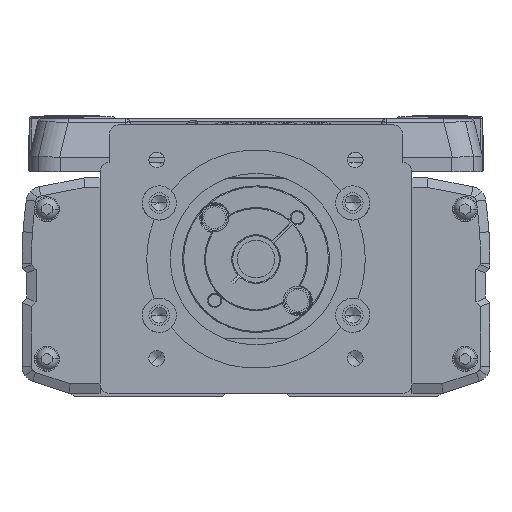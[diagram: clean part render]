
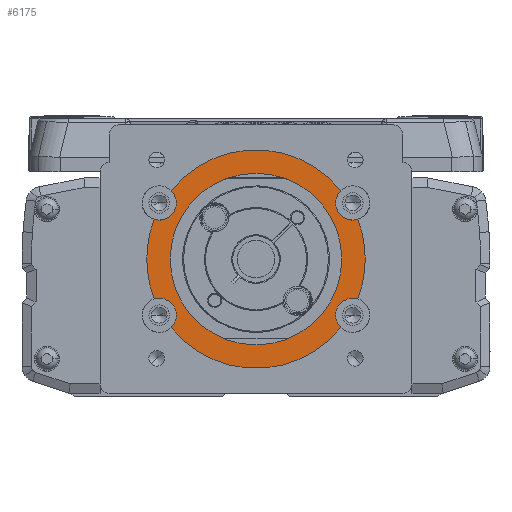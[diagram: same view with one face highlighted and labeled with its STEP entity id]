
A CAD part, left-side view. The second image highlights one B-rep face of the part: STEP entity #6175.
In plain terms, the highlighted planar face has unit normal (-1, 0, 0).
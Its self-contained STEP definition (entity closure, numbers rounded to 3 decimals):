
#6175=ADVANCED_FACE('',(#13494,#13495),#13496,.F.);
#13494=FACE_OUTER_BOUND('',#23481,.T.);
#13495=FACE_BOUND('',#23482,.T.);
#13496=PLANE('',#23483);
#23481=EDGE_LOOP('',(#40903,#40904,#40905,#40906,#40907,#40908,#40909,#40910,#40911,#40912,#40913,#40914,#40915,#40916));
#23482=EDGE_LOOP('',(#40917,#40918));
#23483=AXIS2_PLACEMENT_3D('',#40919,#40920,#40921);
#40903=ORIENTED_EDGE('',*,*,#59332,.F.);
#40904=ORIENTED_EDGE('',*,*,#59269,.T.);
#40905=ORIENTED_EDGE('',*,*,#59333,.T.);
#40906=ORIENTED_EDGE('',*,*,#59334,.F.);
#40907=ORIENTED_EDGE('',*,*,#59335,.F.);
#40908=ORIENTED_EDGE('',*,*,#59336,.T.);
#40909=ORIENTED_EDGE('',*,*,#55675,.F.);
#40910=ORIENTED_EDGE('',*,*,#56254,.F.);
#40911=ORIENTED_EDGE('',*,*,#59337,.T.);
#40912=ORIENTED_EDGE('',*,*,#59338,.T.);
#40913=ORIENTED_EDGE('',*,*,#59152,.F.);
#40914=ORIENTED_EDGE('',*,*,#59339,.F.);
#40915=ORIENTED_EDGE('',*,*,#59340,.T.);
#40916=ORIENTED_EDGE('',*,*,#54349,.F.);
#40917=ORIENTED_EDGE('',*,*,#59341,.F.);
#40918=ORIENTED_EDGE('',*,*,#59342,.F.);
#40919=CARTESIAN_POINT('',(-69.,0.,0.));
#40920=DIRECTION('',(1.0,0.,0.));
#40921=DIRECTION('',(0.,1.0,0.));
#54349=EDGE_CURVE('',#65269,#65271,#65272,.T.);
#55675=EDGE_CURVE('',#67510,#67512,#67513,.T.);
#56254=EDGE_CURVE('',#68444,#67510,#68446,.T.);
#59152=EDGE_CURVE('',#72708,#72710,#72711,.T.);
#59269=EDGE_CURVE('',#72872,#72869,#72873,.T.);
#59332=EDGE_CURVE('',#72872,#65269,#72957,.T.);
#59333=EDGE_CURVE('',#72869,#72958,#72959,.T.);
#59334=EDGE_CURVE('',#72960,#72958,#72961,.T.);
#59335=EDGE_CURVE('',#72962,#72960,#72963,.T.);
#59336=EDGE_CURVE('',#72962,#67512,#72964,.T.);
#59337=EDGE_CURVE('',#68444,#72965,#72966,.T.);
#59338=EDGE_CURVE('',#72965,#72710,#72967,.T.);
#59339=EDGE_CURVE('',#72968,#72708,#72969,.T.);
#59340=EDGE_CURVE('',#72968,#65271,#72970,.T.);
#59341=EDGE_CURVE('',#72971,#72972,#72973,.T.);
#59342=EDGE_CURVE('',#72972,#72971,#72974,.T.);
#65269=VERTEX_POINT('',#80628);
#65271=VERTEX_POINT('',#80631);
#65272=CIRCLE('',#80632,5.5);
#67510=VERTEX_POINT('',#83705);
#67512=VERTEX_POINT('',#83708);
#67513=CIRCLE('',#83709,5.5);
#68444=VERTEX_POINT('',#84959);
#68446=CIRCLE('',#84962,5.5);
#72708=VERTEX_POINT('',#90797);
#72710=VERTEX_POINT('',#90800);
#72711=CIRCLE('',#90801,5.5);
#72869=VERTEX_POINT('',#91012);
#72872=VERTEX_POINT('',#91016);
#72873=CIRCLE('',#91017,35.0);
#72957=CIRCLE('',#91152,5.5);
#72958=VERTEX_POINT('',#91153);
#72959=CIRCLE('',#91154,35.0);
#72960=VERTEX_POINT('',#91155);
#72961=CIRCLE('',#91156,5.5);
#72962=VERTEX_POINT('',#91157);
#72963=CIRCLE('',#91158,5.5);
#72964=CIRCLE('',#91159,35.0);
#72965=VERTEX_POINT('',#91160);
#72966=CIRCLE('',#91161,35.0);
#72967=CIRCLE('',#91162,35.0);
#72968=VERTEX_POINT('',#91163);
#72969=CIRCLE('',#91164,5.5);
#72970=CIRCLE('',#91165,35.0);
#72971=VERTEX_POINT('',#91166);
#72972=VERTEX_POINT('',#91167);
#72973=CIRCLE('',#91168,27.5);
#72974=CIRCLE('',#91169,27.5);
#80628=CARTESIAN_POINT('',(-69.,25.5,18.));
#80631=CARTESIAN_POINT('',(-69.,27.223,21.998));
#80632=AXIS2_PLACEMENT_3D('',#98387,#98388,#98389);
#83705=CARTESIAN_POINT('',(-69.,-25.5,-18.));
#83708=CARTESIAN_POINT('',(-69.,-27.223,-21.998));
#83709=AXIS2_PLACEMENT_3D('',#100320,#100321,#100322);
#84959=CARTESIAN_POINT('',(-69.,-32.6,-12.738));
#84962=AXIS2_PLACEMENT_3D('',#101188,#101189,#101190);
#90797=CARTESIAN_POINT('',(-69.,-25.5,18.));
#90800=CARTESIAN_POINT('',(-69.,-32.6,12.738));
#90801=AXIS2_PLACEMENT_3D('',#105376,#105377,#105378);
#91012=CARTESIAN_POINT('',(-69.,35.,0.));
#91016=CARTESIAN_POINT('',(-69.,32.6,12.738));
#91017=AXIS2_PLACEMENT_3D('',#105531,#105532,#105533);
#91152=AXIS2_PLACEMENT_3D('',#105618,#105619,#105620);
#91153=CARTESIAN_POINT('',(-69.,32.6,-12.738));
#91154=AXIS2_PLACEMENT_3D('',#105621,#105622,#105623);
#91155=CARTESIAN_POINT('',(-69.,25.5,-18.));
#91156=AXIS2_PLACEMENT_3D('',#105624,#105625,#105626);
#91157=CARTESIAN_POINT('',(-69.,27.223,-21.998));
#91158=AXIS2_PLACEMENT_3D('',#105627,#105628,#105629);
#91159=AXIS2_PLACEMENT_3D('',#105630,#105631,#105632);
#91160=CARTESIAN_POINT('',(-69.,-35.,0.));
#91161=AXIS2_PLACEMENT_3D('',#105633,#105634,#105635);
#91162=AXIS2_PLACEMENT_3D('',#105636,#105637,#105638);
#91163=CARTESIAN_POINT('',(-69.,-27.223,21.998));
#91164=AXIS2_PLACEMENT_3D('',#105639,#105640,#105641);
#91165=AXIS2_PLACEMENT_3D('',#105642,#105643,#105644);
#91166=CARTESIAN_POINT('',(-69.,-27.5,0.));
#91167=CARTESIAN_POINT('',(-69.,27.5,0.));
#91168=AXIS2_PLACEMENT_3D('',#105645,#105646,#105647);
#91169=AXIS2_PLACEMENT_3D('',#105648,#105649,#105650);
#98387=CARTESIAN_POINT('',(-69.,31.,18.));
#98388=DIRECTION('',(-1.0,0.,0.));
#98389=DIRECTION('',(0.,1.0,0.));
#100320=CARTESIAN_POINT('',(-69.,-31.,-18.));
#100321=DIRECTION('',(-1.0,0.,0.));
#100322=DIRECTION('',(0.,-1.0,0.));
#101188=CARTESIAN_POINT('',(-69.,-31.,-18.));
#101189=DIRECTION('',(-1.0,0.,0.));
#101190=DIRECTION('',(0.,-1.0,0.));
#105376=CARTESIAN_POINT('',(-69.,-31.,18.));
#105377=DIRECTION('',(-1.0,0.,0.));
#105378=DIRECTION('',(0.,-1.0,0.));
#105531=CARTESIAN_POINT('',(-69.,0.,0.));
#105532=DIRECTION('',(-1.0,0.,0.));
#105533=DIRECTION('',(0.,1.0,0.));
#105618=CARTESIAN_POINT('',(-69.,31.,18.));
#105619=DIRECTION('',(-1.0,0.,0.));
#105620=DIRECTION('',(0.,1.0,0.));
#105621=CARTESIAN_POINT('',(-69.,0.,0.));
#105622=DIRECTION('',(-1.0,0.,0.));
#105623=DIRECTION('',(0.,1.0,0.));
#105624=CARTESIAN_POINT('',(-69.,31.,-18.));
#105625=DIRECTION('',(-1.0,0.,0.));
#105626=DIRECTION('',(0.,1.0,0.));
#105627=CARTESIAN_POINT('',(-69.,31.,-18.));
#105628=DIRECTION('',(-1.0,0.,0.));
#105629=DIRECTION('',(0.,1.0,0.));
#105630=CARTESIAN_POINT('',(-69.,0.,0.));
#105631=DIRECTION('',(-1.0,0.,0.));
#105632=DIRECTION('',(0.,1.0,0.));
#105633=CARTESIAN_POINT('',(-69.,0.,0.));
#105634=DIRECTION('',(-1.0,0.,0.));
#105635=DIRECTION('',(0.,1.0,0.));
#105636=CARTESIAN_POINT('',(-69.,0.,0.));
#105637=DIRECTION('',(-1.0,0.,0.));
#105638=DIRECTION('',(0.,1.0,0.));
#105639=CARTESIAN_POINT('',(-69.,-31.,18.));
#105640=DIRECTION('',(-1.0,0.,0.));
#105641=DIRECTION('',(0.,-1.0,0.));
#105642=CARTESIAN_POINT('',(-69.,0.,0.));
#105643=DIRECTION('',(-1.0,0.,0.));
#105644=DIRECTION('',(0.,1.0,0.));
#105645=CARTESIAN_POINT('',(-69.,0.,0.));
#105646=DIRECTION('',(-1.0,0.,0.));
#105647=DIRECTION('',(0.,1.0,0.));
#105648=CARTESIAN_POINT('',(-69.,0.,0.));
#105649=DIRECTION('',(-1.0,0.,0.));
#105650=DIRECTION('',(0.,1.0,0.));
